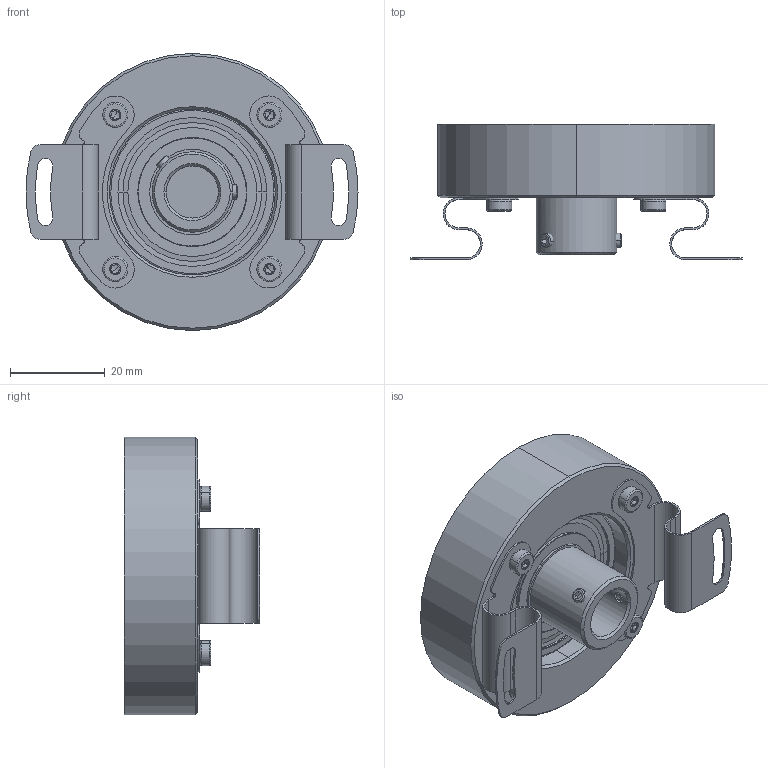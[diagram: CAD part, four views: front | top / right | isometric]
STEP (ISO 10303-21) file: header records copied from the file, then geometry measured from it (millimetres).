
FILE_DESCRIPTION (( 'STEP AP214' ), '1' );
FILE_NAME ('drawing ucd-xbs0-q5b-n.STEP', '2017-03-22T08:34:37', ( '' ), ( '' ), 'SwSTEP 2.0', 'SolidWorks 2015', '' );
FILE_SCHEMA (( 'AUTOMOTIVE_DESIGN' ));
Length unit declared in the file: millimetre
Products named in the file (1): drawing ucd-xbs0-q5b-n
Bounding box: 70.05 x 28.6 x 58.5 mm (x, y, z)
Volume: 37157.6 mm3; surface area: 23421.5 mm2
Topology: 23 solids, 23 shells, 768 faces, 1762 edges, 999 vertices
Faces by surface type: cone 326, cylinder 244, plane 104, bspline 54, torus 40
Entity records: 31588 total; most frequent: CARTESIAN_POINT 5746, DIRECTION 3914, ORIENTED_EDGE 3392, EDGE_CURVE 1696, AXIS2_PLACEMENT_3D 1635, VERTEX_POINT 999, CIRCLE 920, EDGE_LOOP 817
